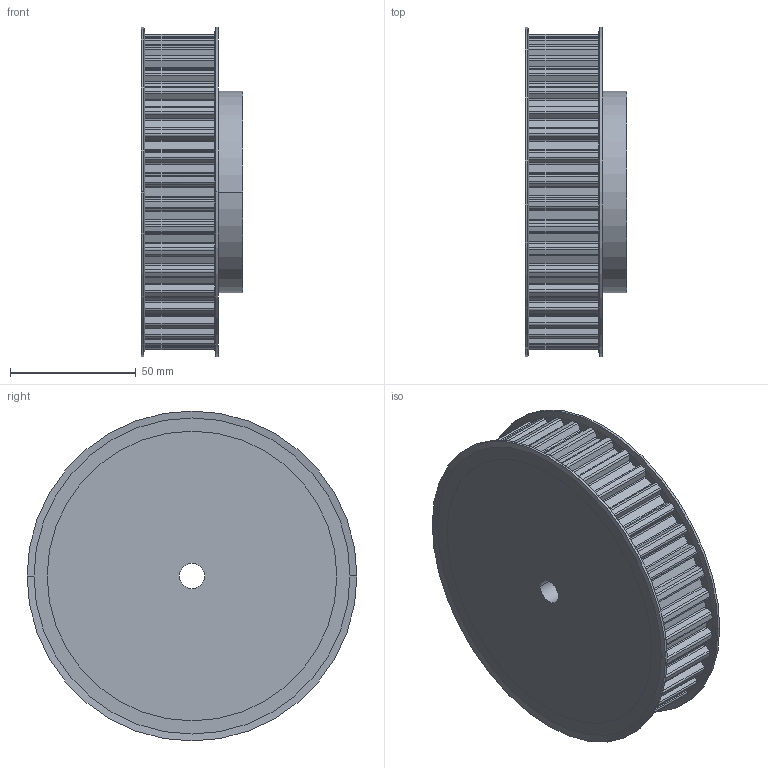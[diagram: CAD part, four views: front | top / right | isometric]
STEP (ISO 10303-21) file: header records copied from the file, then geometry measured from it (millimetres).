
FILE_DESCRIPTION( ( '' ), '1' );
FILE_NAME( 'C:/Users/Stangenbergd/Documents/CAD_Step/1/16434000.stp', '2021-10-19T08:55:58', ( '' ), ( '' ), ' ', ' ', ' ' );
FILE_SCHEMA( ( 'CONFIG_CONTROL_DESIGN' ) );
Length unit declared in the file: millimetre
Products named in the file (1): 1
Bounding box: 40.24 x 131 x 131 mm (x, y, z)
Volume: 399443 mm3; surface area: 50683.2 mm2
Topology: 1 solids, 1 shells, 347 faces, 1012 edges, 672 vertices
Faces by surface type: cylinder 212, plane 127, cone 8
Entity records: 11702 total; most frequent: DIRECTION 2140, CARTESIAN_POINT 2032, ORIENTED_EDGE 2024, EDGE_CURVE 1012, AXIS2_PLACEMENT_3D 780, VERTEX_POINT 672, LINE 580, VECTOR 580
